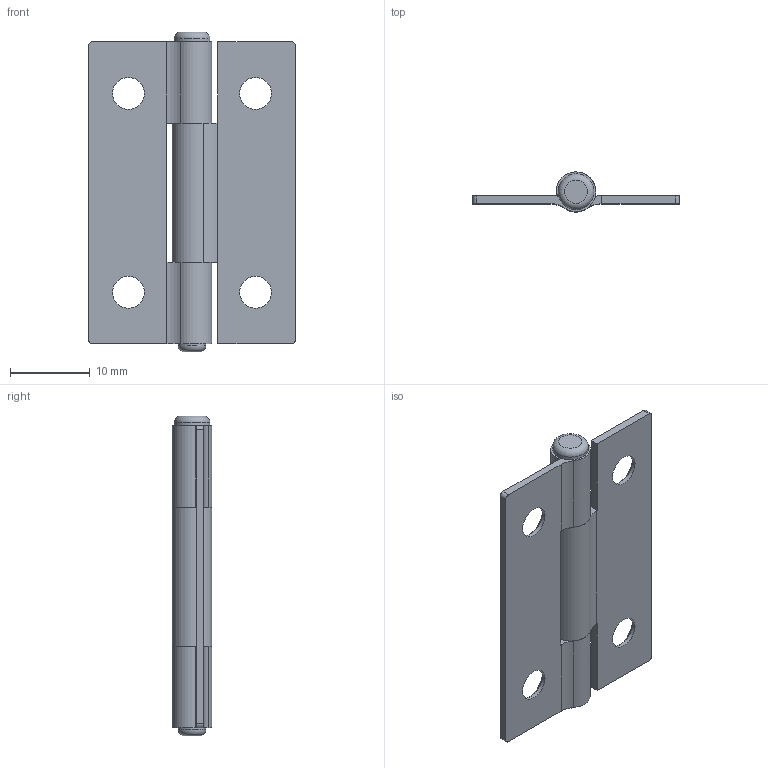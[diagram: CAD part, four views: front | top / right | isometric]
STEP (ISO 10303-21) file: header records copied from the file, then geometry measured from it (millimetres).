
FILE_DESCRIPTION(/* description */ (''),/* implementation_level */ '2;1');
FILE_NAME(/* name */ '\\NAS\db20\HH3826-10\DR_HH3826-10.stp',/* time_stamp */ '2017-08-16T14:46:21+09:00',/* author */ ('user'),/* organization */ (''),/* preprocessor_version */ 'ST-DEVELOPER v15.6',/* originating_system */ 'Autodesk Inventor 2015',/* authorisation */ '');
FILE_SCHEMA (('AUTOMOTIVE_DESIGN { 1 0 10303 214 3 1 1 }'));
Length unit declared in the file: millimetre
Products named in the file (1): DR_HH3826-10
Bounding box: 26 x 4.99 x 40.2 mm (x, y, z)
Volume: 1484.8 mm3; surface area: 3110.9 mm2
Topology: 3 solids, 3 shells, 53 faces, 133 edges, 88 vertices
Faces by surface type: plane 24, cylinder 23, cone 4, torus 2
Full cylindrical faces by diameter (mm): 3 x1, 3.5 x1, 4 x4, 4.5 x1
Entity records: 1540 total; most frequent: DIRECTION 276, CARTESIAN_POINT 254, ORIENTED_EDGE 232, EDGE_CURVE 116, AXIS2_PLACEMENT_3D 106, VERTEX_POINT 84, EDGE_LOOP 76, LINE 64
